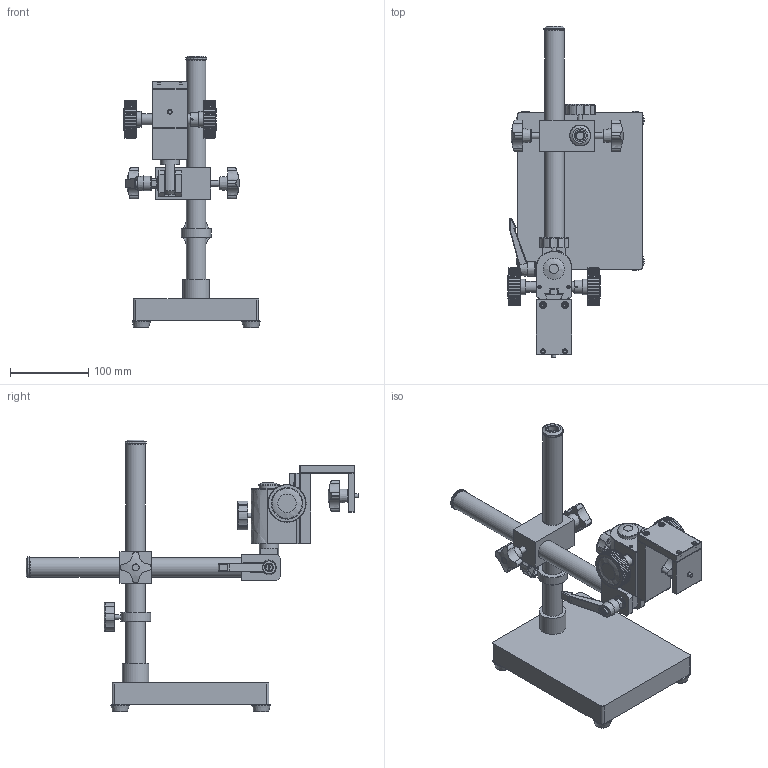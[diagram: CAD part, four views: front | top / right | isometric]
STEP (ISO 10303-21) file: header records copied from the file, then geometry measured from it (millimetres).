
FILE_DESCRIPTION(('STEP AP214'),'1');
FILE_NAME('GR-STD2HB.stp','2024-09-20T02:21:55',(' '),(' '),'Spatial InterOp 3D',' ',' ');
FILE_SCHEMA(('AUTOMOTIVE_DESIGN { 1 0 10303 214 1 1 1 1 }'));
Length unit declared in the file: metre
Products named in the file (6): GR-STD2HB; Component1; Component2; Component3; Component4; Component5
Assembly tree (5 placements, depth 2):
  GR-STD2HB
    Component1
    Component2
    Component3
    Component4
    Component5
Bounding box: 174.29 x 423.48 x 346.9 mm (x, y, z)
Volume: 1574677.5 mm3; surface area: 329546.1 mm2
Topology: 12 solids, 21 shells, 2901 faces, 6940 edges, 4111 vertices
Faces by surface type: plane 1891, cylinder 721, bspline 154, torus 75, cone 51, sphere 9
Full cylindrical faces by diameter (mm): 1.5 x4, 3 x8, 3.1 x4, 3.9 x2, 4 x6, 4.25 x1, 5 x7, 5.1 x2, 5.6 x2, 5.8 x1, 6 x2, 6.4 x2, 6.5 x1, 6.9 x3, 7 x2, 8 x4, 8.3 x5, 8.5 x6, 9.3 x1, 9.8 x3, 9.9 x2, 10 x4, 11 x1, 11.7 x4, 12.1 x1, 12.4 x1, 12.8 x1, 12.9 x1, 13.1 x1, 13.9 x1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
Entity records: 188489 total; most frequent: CARTESIAN_POINT 66541, DIRECTION 13677, ORIENTED_EDGE 13216, STYLED_ITEM 9521, PRESENTATION_STYLE_ASSIGNMENT 9521, COLOUR_RGB 9521, EDGE_CURVE 6608, CURVE_STYLE 6608
